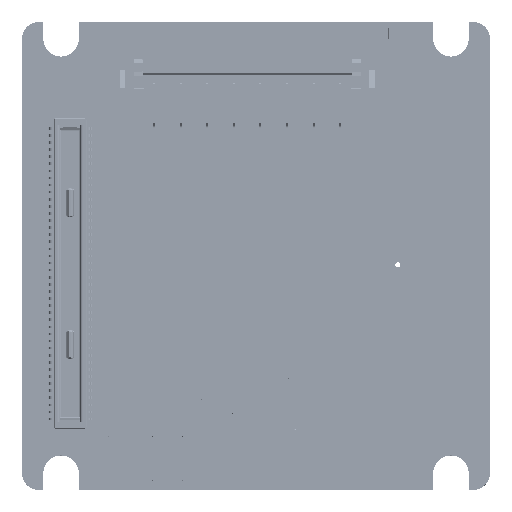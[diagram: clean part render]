
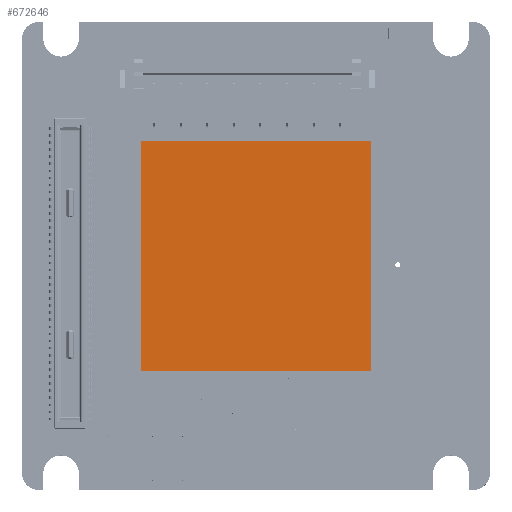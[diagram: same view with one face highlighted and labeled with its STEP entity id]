
A CAD part, top view. The second image highlights one B-rep face of the part: STEP entity #672646.
In plain terms, the highlighted planar face has unit normal (0, 0, 1).
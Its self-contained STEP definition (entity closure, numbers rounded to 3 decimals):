
#56803 = CARTESIAN_POINT ( 'NONE',  ( -6.5, 6.5, 6.162 ) ) ;
#65381 = DIRECTION ( 'NONE',  ( 0., 0., -1. ) ) ;
#67893 = DIRECTION ( 'NONE',  ( 1., 0., 0. ) ) ;
#69463 = VERTEX_POINT ( 'NONE', #409744 ) ;
#72213 = CARTESIAN_POINT ( 'NONE',  ( 6.5, -6.5, 6.162 ) ) ;
#117981 = CARTESIAN_POINT ( 'NONE',  ( 0., 0., 6.162 ) ) ;
#122951 = ORIENTED_EDGE ( 'NONE', *, *, #585005, .F. ) ;
#144165 = VERTEX_POINT ( 'NONE', #306619 ) ;
#145253 = VECTOR ( 'NONE', #413786, 1000. ) ;
#210469 = LINE ( 'NONE', #709228, #314930 ) ;
#236740 = VECTOR ( 'NONE', #251519, 1000. ) ;
#251519 = DIRECTION ( 'NONE',  ( 0., -1., 0. ) ) ;
#269764 = VECTOR ( 'NONE', #67893, 1000. ) ;
#293942 = FACE_OUTER_BOUND ( 'NONE', #634236, .T. ) ;
#306619 = CARTESIAN_POINT ( 'NONE',  ( -6.5, -6.5, 6.162 ) ) ;
#314930 = VECTOR ( 'NONE', #498588, 1000. ) ;
#314993 = ORIENTED_EDGE ( 'NONE', *, *, #324482, .F. ) ;
#320247 = CARTESIAN_POINT ( 'NONE',  ( 6.5, 6.5, 6.162 ) ) ;
#324482 = EDGE_CURVE ( 'NONE', #144165, #69463, #353869, .T. ) ;
#353869 = LINE ( 'NONE', #529638, #145253 ) ;
#357546 = PLANE ( 'NONE',  #378068 ) ;
#378068 = AXIS2_PLACEMENT_3D ( 'NONE', #117981, #65381, #585700 ) ;
#409392 = EDGE_CURVE ( 'NONE', #69463, #699250, #633254, .T. ) ;
#409744 = CARTESIAN_POINT ( 'NONE',  ( -6.5, 6.5, 6.162 ) ) ;
#413786 = DIRECTION ( 'NONE',  ( 0., 1., 0. ) ) ;
#428095 = ORIENTED_EDGE ( 'NONE', *, *, #409392, .F. ) ;
#483294 = LINE ( 'NONE', #546694, #236740 ) ;
#498588 = DIRECTION ( 'NONE',  ( -1., 0., 0. ) ) ;
#529638 = CARTESIAN_POINT ( 'NONE',  ( -6.5, -6.5, 6.162 ) ) ;
#537040 = EDGE_CURVE ( 'NONE', #664360, #144165, #210469, .T. ) ;
#546694 = CARTESIAN_POINT ( 'NONE',  ( 6.5, 6.5, 6.162 ) ) ;
#575875 = ORIENTED_EDGE ( 'NONE', *, *, #537040, .F. ) ;
#585005 = EDGE_CURVE ( 'NONE', #699250, #664360, #483294, .T. ) ;
#585700 = DIRECTION ( 'NONE',  ( 0., -1., 0. ) ) ;
#633254 = LINE ( 'NONE', #56803, #269764 ) ;
#634236 = EDGE_LOOP ( 'NONE', ( #575875, #122951, #428095, #314993 ) ) ;
#664360 = VERTEX_POINT ( 'NONE', #72213 ) ;
#672646 = ADVANCED_FACE ( 'NONE', ( #293942 ), #357546, .F. ) ;
#699250 = VERTEX_POINT ( 'NONE', #320247 ) ;
#709228 = CARTESIAN_POINT ( 'NONE',  ( 6.5, -6.5, 6.162 ) ) ;
